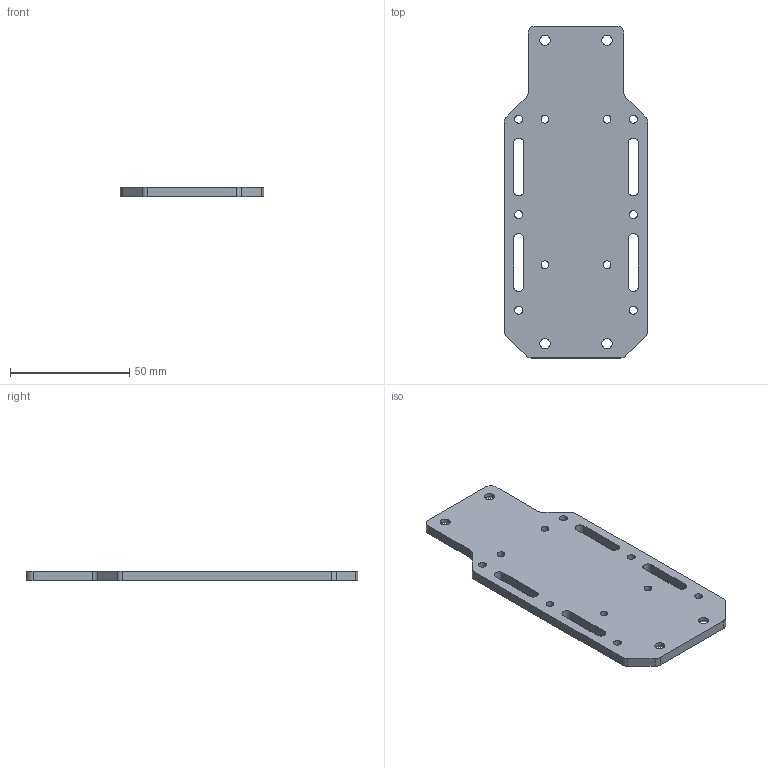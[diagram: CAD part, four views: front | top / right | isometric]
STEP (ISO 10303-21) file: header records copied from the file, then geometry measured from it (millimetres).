
FILE_DESCRIPTION (( 'STEP AP214' ), '1' );
FILE_NAME ('MAM13501 -XB- Plaque Mobile X.STEP', '2024-12-18T13:50:48', ( '' ), ( '' ), 'SwSTEP 2.0', 'SolidWorks 2019', '' );
FILE_SCHEMA (( 'AUTOMOTIVE_DESIGN' ));
Length unit declared in the file: millimetre
Products named in the file (1): MAM13501 -XB- Plaque Mobile X
Bounding box: 60 x 139 x 4 mm (x, y, z)
Volume: 27847 mm3; surface area: 16959.8 mm2
Topology: 1 solids, 1 shells, 74 faces, 208 edges, 136 vertices
Faces by surface type: cylinder 46, plane 20, cone 8
Entity records: 2534 total; most frequent: DIRECTION 458, CARTESIAN_POINT 419, ORIENTED_EDGE 416, EDGE_CURVE 208, AXIS2_PLACEMENT_3D 175, VERTEX_POINT 136, EDGE_LOOP 110, VECTOR 108
